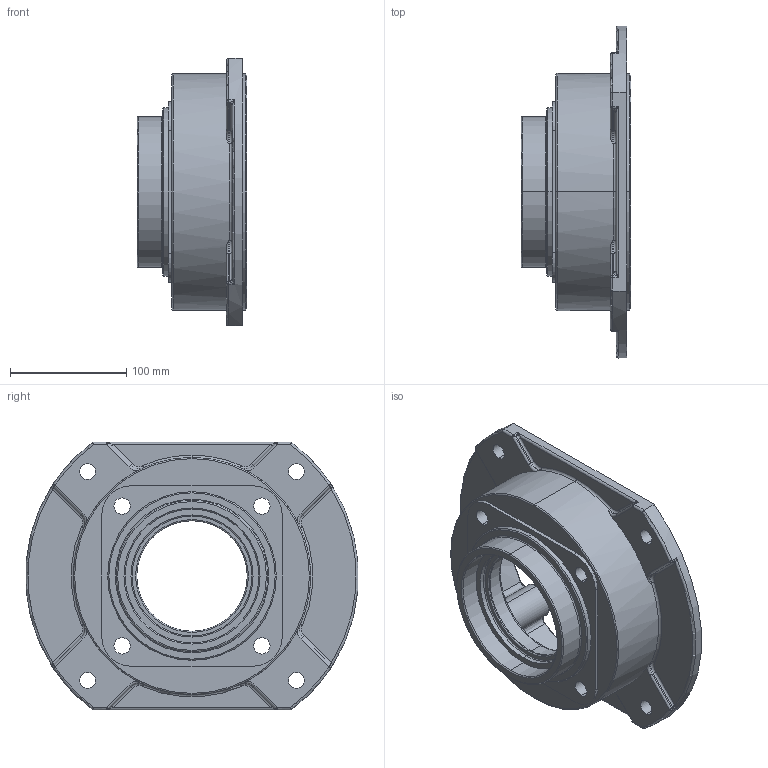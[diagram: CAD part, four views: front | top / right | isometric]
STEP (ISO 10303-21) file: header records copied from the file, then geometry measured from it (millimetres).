
FILE_DESCRIPTION (( 'STEP AP203' ), '1' );
FILE_NAME ('KFYM0832871S.STEP', '2020-05-05T07:37:54', ( 'Microsoft' ), ( 'Microsoft' ), 'SwSTEP 2.0', 'SolidWorks 2012', '' );
FILE_SCHEMA (( 'CONFIG_CONTROL_DESIGN' ));
Length unit declared in the file: millimetre
Products named in the file (1): KFYM0832871S
Bounding box: 94.51 x 285.51 x 230 mm (x, y, z)
Volume: 957708.9 mm3; surface area: 229951.2 mm2
Topology: 1 solids, 1 shells, 338 faces, 799 edges, 469 vertices
Faces by surface type: cylinder 104, torus 93, plane 50, cone 43, bspline 40, sphere 8
Entity records: 11988 total; most frequent: CARTESIAN_POINT 4195, DIRECTION 1759, ORIENTED_EDGE 1566, EDGE_CURVE 783, AXIS2_PLACEMENT_3D 771, CIRCLE 472, VERTEX_POINT 465, EDGE_LOOP 374
